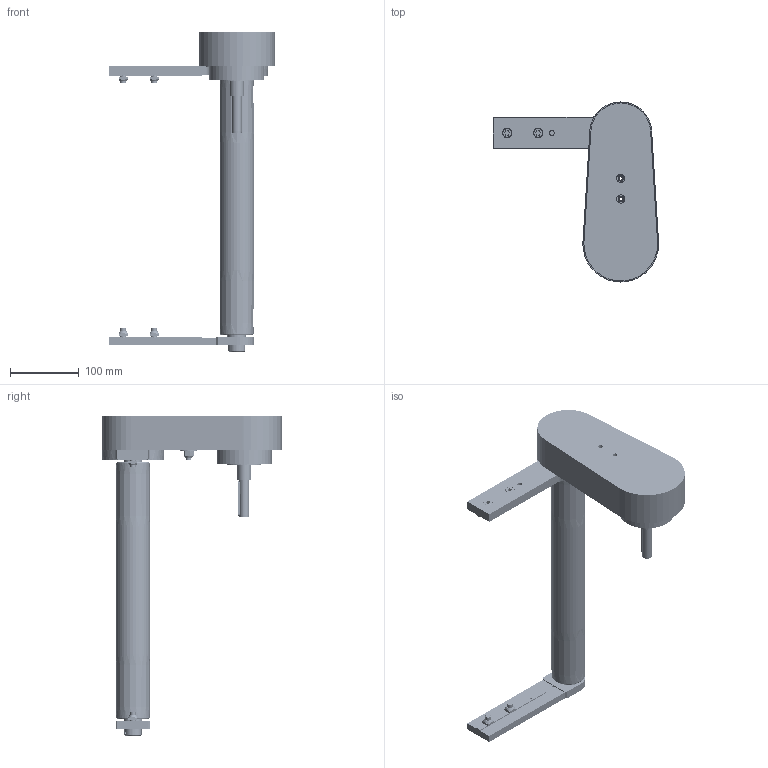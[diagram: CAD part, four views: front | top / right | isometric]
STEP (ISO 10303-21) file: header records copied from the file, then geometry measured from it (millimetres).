
FILE_DESCRIPTION (( 'STEP AP203' ), '1' );
FILE_NAME ('084.050.KTC.30.350.STEP', '2019-07-29T13:12:46', ( '' ), ( '' ), 'SwSTEP 2.0', 'SolidWorks 2018', '' );
FILE_SCHEMA (( 'CONFIG_CONTROL_DESIGN' ));
Length unit declared in the file: millimetre
Products named in the file (26): 084.302.000 DADI ALUSIC 13x13_084.302.004; 084.810.005; 084.802.034_084.802.034; Circlip DIN 471 - 8 x 0.8_Circlip DIN 471 - 8 x 0.8; 084.809.001; 084.810.004; 084.810.010; CUSCINETTI A SFERE_608-2RS; 084.803.012; 084.811.004; 084.813.006; 084.813.001; CHIAVETTE_A 5x5x50 UNI 6604-69; 084.810.001; 084.050.KTC.30.350; 084.803.014; DADI ESAGONALI AUTOBLOCCANTI UNI 7473 INOX_M8 UNI 7473 INOX; 084.815.128_Default<A macchina>; 084.807.001_084.807.001; 084.809.003; RONDELLE FASCIA LARGA UNI 6593_8.4x24 UNI 6593; 084.809.004; 084.802.017_084.802.017; 084.301.000 VITI ALUSIC_084.301.003; 084.807.002_084.807.002; 084.802.021
Assembly tree (34 placements, depth 3):
  084.050.KTC.30.350
    084.815.128_Default<A macchina>
    084.811.004
    084.813.001
    084.810.001  x2
    084.802.034_084.802.034
    084.802.017_084.802.017
    084.807.001_084.807.001
    084.807.002_084.807.002
    084.803.014  x2
    084.809.004
    084.813.006
    084.802.021
    084.803.012
    084.809.001
    084.809.003
    084.810.005
      084.810.010
      084.810.004
      CUSCINETTI A SFERE_608-2RS  x2
      Circlip DIN 471 - 8 x 0.8_Circlip DIN 471 - 8 x 0.8
      RONDELLE FASCIA LARGA UNI 6593_8.4x24 UNI 6593
      DADI ESAGONALI AUTOBLOCCANTI UNI 7473 INOX_M8 UNI 7473 INOX
    084.301.000 VITI ALUSIC_084.301.003  x4
    084.302.000 DADI ALUSIC 13x13_084.302.004  x4
    CHIAVETTE_A 5x5x50 UNI 6604-69
Bounding box: 240 x 261.5 x 466 mm (x, y, z)
Volume: 996261.8 mm3; surface area: 556355 mm2
Topology: 63 solids, 64 shells, 2916 faces, 6878 edges, 4397 vertices
Faces by surface type: cylinder 1439, plane 732, bspline 468, cone 174, torus 94, sphere 9
Entity records: 83345 total; most frequent: CARTESIAN_POINT 18784, DIRECTION 14023, ORIENTED_EDGE 12154, EDGE_CURVE 6077, AXIS2_PLACEMENT_3D 5927, VERTEX_POINT 3874, CIRCLE 3743, EDGE_LOOP 3193
